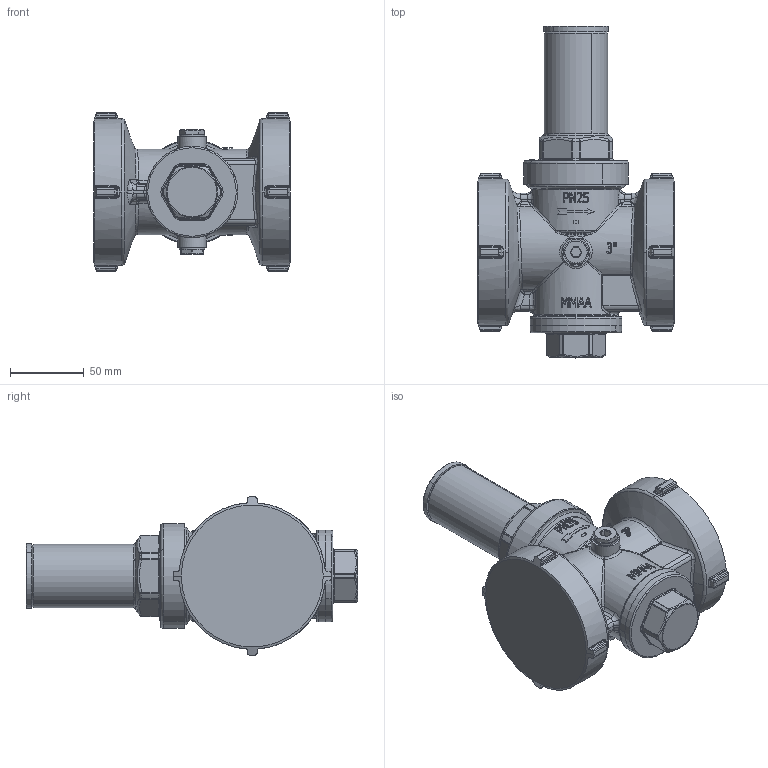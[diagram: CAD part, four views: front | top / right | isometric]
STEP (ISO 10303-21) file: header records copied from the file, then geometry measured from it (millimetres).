
FILE_DESCRIPTION (( 'STEP AP214' ), '1' );
FILE_NAME ('BPR408_standardowy_reduktor_cisnienia_9040810_0_3D_AFRISO1.STEP', '2025-06-04T11:32:28', ( '' ), ( '' ), 'SwSTEP 2.0', 'SolidWorks 2024', '' );
FILE_SCHEMA (( 'AUTOMOTIVE_DESIGN' ));
Length unit declared in the file: millimetre
Products named in the file (6): BPR408_standardowy_reduktor_cisnienia_9040810_0_3D_AFRISO1; 3301.578.00; 3101.542.00; 1001.578.02; 4401.008.00; 7001.235.42
Assembly tree (6 placements, depth 2):
  BPR408_standardowy_reduktor_cisnienia_9040810_0_3D_AFRISO1
    1001.578.02
    3101.542.00
    3301.578.00
    4401.008.00  x2
    7001.235.42
Bounding box: 133 x 224.5 x 107 mm (x, y, z)
Volume: 272249.4 mm3; surface area: 115474.1 mm2
Topology: 5 solids, 8 shells, 1318 faces, 3382 edges, 2084 vertices
Faces by surface type: plane 399, bspline 354, cylinder 342, torus 117, cone 74, sphere 32
Entity records: 90223 total; most frequent: CARTESIAN_POINT 50816, ORIENTED_EDGE 6342, DIRECTION 4546, EDGE_CURVE 3173, VERTEX_POINT 1984, AXIS2_PLACEMENT_3D 1655, EDGE_LOOP 1297, ADVANCED_FACE 1248
